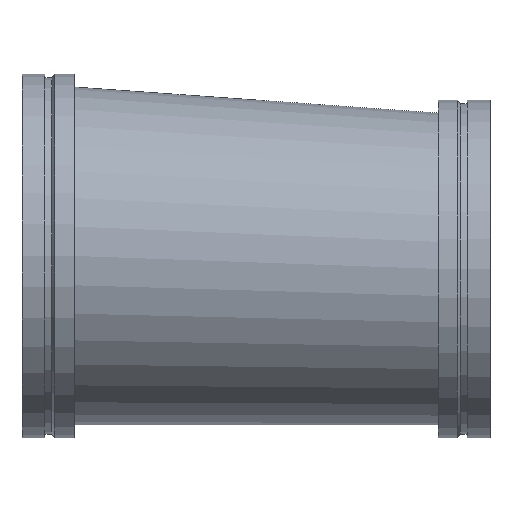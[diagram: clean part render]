
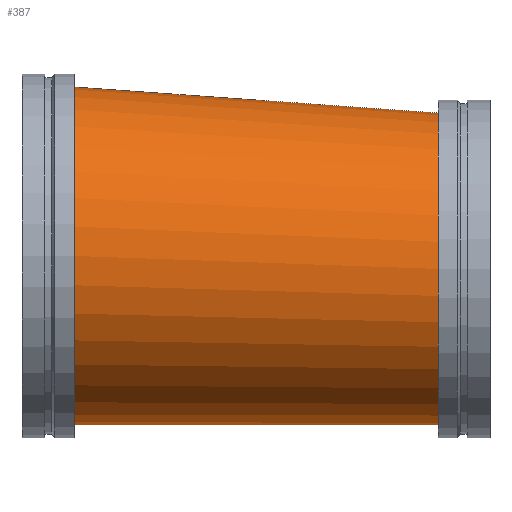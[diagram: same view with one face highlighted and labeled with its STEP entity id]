
A CAD part, top view. The second image highlights one B-rep face of the part: STEP entity #387.
In plain terms, the highlighted free-form (B-spline) face has degree [1, 2] with [2, 9] control points.
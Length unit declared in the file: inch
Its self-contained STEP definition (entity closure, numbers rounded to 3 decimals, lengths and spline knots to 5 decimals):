
#46=B_SPLINE_CURVE_WITH_KNOTS('',1,(#747,#748),.UNSPECIFIED.,.F.,.F.,(2,
2),(-2.15663,-0.00005),.UNSPECIFIED.);
#48=(
BOUNDED_SURFACE()
B_SPLINE_SURFACE(1,2,((#729,#730,#731,#732,#733,#734,#735,#736,#737),(#738,
#739,#740,#741,#742,#743,#744,#745,#746)),.UNSPECIFIED.,.F.,.T.,.F.)
B_SPLINE_SURFACE_WITH_KNOTS((2,2),(3,2,2,2,3),(-0.03567,2.18952),
(-3.14159,-1.5708,0.,1.5708,3.14159),
 .UNSPECIFIED.)
GEOMETRIC_REPRESENTATION_ITEM()
RATIONAL_B_SPLINE_SURFACE(((1.,0.707,1.,0.707,1.,
0.707,1.,0.707,1.),(1.,0.707,1.,0.707,
1.,0.707,1.,0.707,1.)))
REPRESENTATION_ITEM('')
SURFACE()
);
#98=FACE_OUTER_BOUND('',#120,.T.);
#120=EDGE_LOOP('',(#321,#322,#323,#324,#325,#326));
#129=CIRCLE('',#415,12.);
#130=CIRCLE('',#416,12.);
#153=CIRCLE('',#450,13.);
#154=CIRCLE('',#451,13.);
#166=VERTEX_POINT('',#628);
#167=VERTEX_POINT('',#629);
#190=VERTEX_POINT('',#695);
#191=VERTEX_POINT('',#696);
#203=EDGE_CURVE('',#166,#167,#129,.T.);
#204=EDGE_CURVE('',#167,#166,#130,.T.);
#235=EDGE_CURVE('',#190,#191,#153,.T.);
#236=EDGE_CURVE('',#191,#190,#154,.T.);
#243=EDGE_CURVE('',#167,#191,#46,.T.);
#321=ORIENTED_EDGE('',*,*,#203,.T.);
#322=ORIENTED_EDGE('',*,*,#243,.T.);
#323=ORIENTED_EDGE('',*,*,#236,.T.);
#324=ORIENTED_EDGE('',*,*,#235,.T.);
#325=ORIENTED_EDGE('',*,*,#243,.F.);
#326=ORIENTED_EDGE('',*,*,#204,.T.);
#387=ADVANCED_FACE('',(#98),#48,.F.);
#415=AXIS2_PLACEMENT_3D('',#630,#486,#487);
#416=AXIS2_PLACEMENT_3D('',#631,#488,#489);
#450=AXIS2_PLACEMENT_3D('',#697,#564,#565);
#451=AXIS2_PLACEMENT_3D('',#698,#566,#567);
#486=DIRECTION('center_axis',(-1.,0.,0.));
#487=DIRECTION('ref_axis',(0.,-1.,0.));
#488=DIRECTION('center_axis',(-1.,0.,0.));
#489=DIRECTION('ref_axis',(0.,-1.,0.));
#564=DIRECTION('center_axis',(1.,0.,0.));
#565=DIRECTION('ref_axis',(0.,1.,0.));
#566=DIRECTION('center_axis',(1.,0.,0.));
#567=DIRECTION('ref_axis',(0.,1.,0.));
#628=CARTESIAN_POINT('',(32.,-13.,0.));
#629=CARTESIAN_POINT('',(32.,-1.01527,11.99999));
#630=CARTESIAN_POINT('Origin',(32.,-1.,0.));
#631=CARTESIAN_POINT('Origin',(32.,-1.,0.));
#695=CARTESIAN_POINT('',(4.,13.,0.));
#696=CARTESIAN_POINT('',(4.,-0.01654,12.99999));
#697=CARTESIAN_POINT('Origin',(4.,0.,0.));
#698=CARTESIAN_POINT('Origin',(4.,0.,0.));
#729=CARTESIAN_POINT('Ctrl Pts',(3.5363,0.,
13.01655));
#730=CARTESIAN_POINT('Ctrl Pts',(3.07261,-13.,13.01655));
#731=CARTESIAN_POINT('Ctrl Pts',(3.07261,-13.,0.));
#732=CARTESIAN_POINT('Ctrl Pts',(3.07261,-13.,-13.01655));
#733=CARTESIAN_POINT('Ctrl Pts',(3.5363,0.,
-13.01655));
#734=CARTESIAN_POINT('Ctrl Pts',(4.,13.,-13.01655));
#735=CARTESIAN_POINT('Ctrl Pts',(4.,13.,0.));
#736=CARTESIAN_POINT('Ctrl Pts',(4.,13.,13.01655));
#737=CARTESIAN_POINT('Ctrl Pts',(3.5363,0.,
13.01655));
#738=CARTESIAN_POINT('Ctrl Pts',(32.42694,-1.0305,11.98474));
#739=CARTESIAN_POINT('Ctrl Pts',(32.,-13.,11.98474));
#740=CARTESIAN_POINT('Ctrl Pts',(32.,-13.,0.));
#741=CARTESIAN_POINT('Ctrl Pts',(32.,-13.,-11.98474));
#742=CARTESIAN_POINT('Ctrl Pts',(32.42694,-1.0305,-11.98474));
#743=CARTESIAN_POINT('Ctrl Pts',(32.85388,10.93901,-11.98474));
#744=CARTESIAN_POINT('Ctrl Pts',(32.85388,10.93901,0.));
#745=CARTESIAN_POINT('Ctrl Pts',(32.85388,10.93901,11.98474));
#746=CARTESIAN_POINT('Ctrl Pts',(32.42694,-1.0305,11.98474));
#747=CARTESIAN_POINT('Ctrl Pts',(32.,-1.01527,11.99999));
#748=CARTESIAN_POINT('Ctrl Pts',(4.,-0.01654,12.99999));
